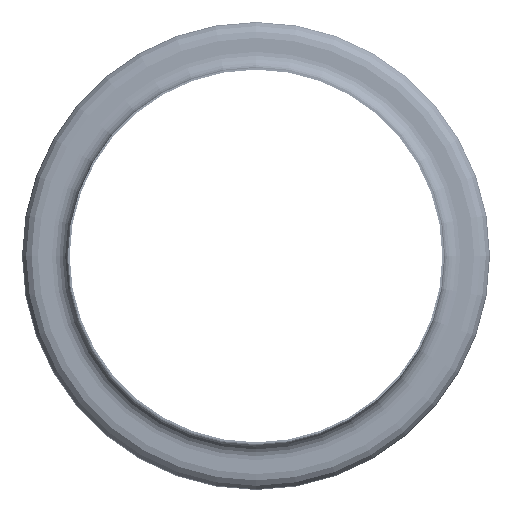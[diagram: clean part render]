
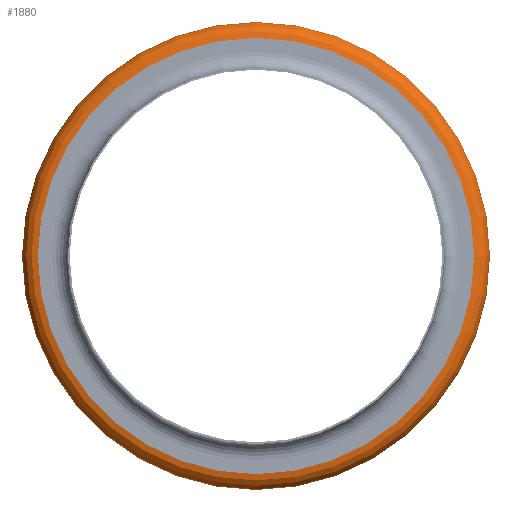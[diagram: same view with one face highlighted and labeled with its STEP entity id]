
A CAD part, front view. The second image highlights one B-rep face of the part: STEP entity #1880.
In plain terms, the highlighted toroidal (fillet/blend) face has major radius 23.764 mm and minor radius 1.736 mm.
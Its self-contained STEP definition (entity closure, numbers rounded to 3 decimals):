
#1880 = ADVANCED_FACE( '', ( #4909, #4910 ), #4911, .T. );
#4909 = FACE_OUTER_BOUND( '', #9540, .T. );
#4910 = FACE_OUTER_BOUND( '', #9541, .T. );
#4911 = TOROIDAL_SURFACE( '', #9542, 23.764, 1.736 );
#9540 = EDGE_LOOP( '', ( #14865 ) );
#9541 = EDGE_LOOP( '', ( #14866 ) );
#9542 = AXIS2_PLACEMENT_3D( '', #14867, #14868, #14869 );
#14865 = ORIENTED_EDGE( '', *, *, #20648, .T. );
#14866 = ORIENTED_EDGE( '', *, *, #20649, .F. );
#14867 = CARTESIAN_POINT( '', ( 0., 3.472, 0. ) );
#14868 = DIRECTION( '', ( 0., -1., 0. ) );
#14869 = DIRECTION( '', ( 0., 0., -1. ) );
#20648 = EDGE_CURVE( '', #23557, #23557, #23558, .T. );
#20649 = EDGE_CURVE( '', #23559, #23559, #23560, .T. );
#23557 = VERTEX_POINT( '', #27025 );
#23558 = CIRCLE( '', #27026, 23.764 );
#23559 = VERTEX_POINT( '', #27027 );
#23560 = CIRCLE( '', #27028, 23.764 );
#27025 = CARTESIAN_POINT( '', ( 0., 5.208, -23.764 ) );
#27026 = AXIS2_PLACEMENT_3D( '', #30739, #30740, #30741 );
#27027 = CARTESIAN_POINT( '', ( 0., 1.736, -23.764 ) );
#27028 = AXIS2_PLACEMENT_3D( '', #30742, #30743, #30744 );
#30739 = CARTESIAN_POINT( '', ( 0., 5.208, 0. ) );
#30740 = DIRECTION( '', ( 0., -1., 0. ) );
#30741 = DIRECTION( '', ( 0., 0., -1. ) );
#30742 = CARTESIAN_POINT( '', ( 0., 1.736, 0. ) );
#30743 = DIRECTION( '', ( 0., -1., 0. ) );
#30744 = DIRECTION( '', ( 0., 0., -1. ) );
